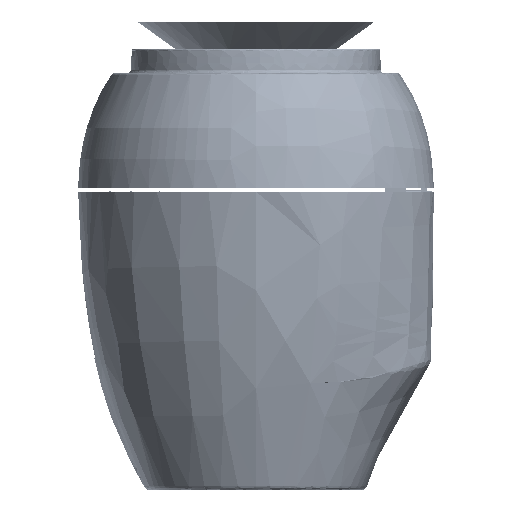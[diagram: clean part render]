
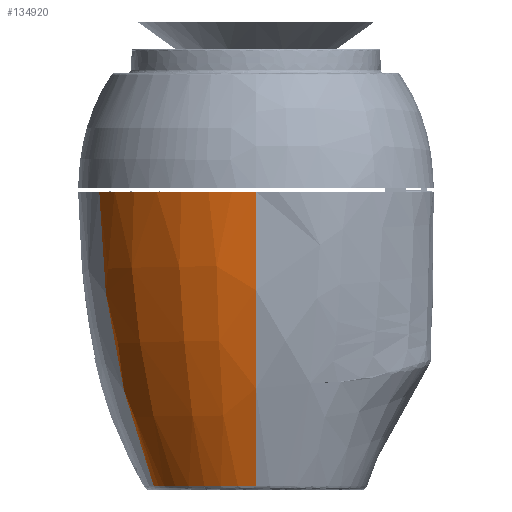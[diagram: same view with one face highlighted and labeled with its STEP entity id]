
A CAD part, left-side view. The second image highlights one B-rep face of the part: STEP entity #134920.
In plain terms, the highlighted free-form (B-spline) face has degree [3, 3] with [7, 10] control points.
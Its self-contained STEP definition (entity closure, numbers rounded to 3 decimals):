
#88322=CARTESIAN_POINT('',(-51.013,8.327,
-35.697));
#88327=CARTESIAN_POINT('',(-56.58,-0.001,
-35.694));
#88328=CARTESIAN_POINT('',(-56.58,0.61,
-35.694));
#88329=CARTESIAN_POINT('',(-56.458,1.828,
-35.694));
#88330=CARTESIAN_POINT('',(-55.931,3.513,
-35.694));
#88331=CARTESIAN_POINT('',(-55.044,5.139,
-35.695));
#88332=CARTESIAN_POINT('',(-53.801,6.606,
-35.696));
#88333=CARTESIAN_POINT('',(-52.463,7.647,
-35.697));
#88334=CARTESIAN_POINT('',(-51.5,8.136,
-35.697));
#88335=CARTESIAN_POINT('',(-51.013,8.327,
-35.697));
#88340=CARTESIAN_POINT('',(-54.312,12.781,
-11.65));
#88341=CARTESIAN_POINT('',(-54.194,12.767,
-13.795));
#88342=CARTESIAN_POINT('',(-53.878,12.555,
-17.995));
#88343=CARTESIAN_POINT('',(-53.157,11.682,
-24.129));
#88344=CARTESIAN_POINT('',(-52.213,10.293,
-29.985));
#88345=CARTESIAN_POINT('',(-51.431,9.025,
-33.828));
#88346=CARTESIAN_POINT('',(-51.013,8.327,
-35.697));
#88351=CARTESIAN_POINT('',(-56.58,-0.001,
-35.694));
#88352=CARTESIAN_POINT('',(-57.391,0.,
-33.767));
#88353=CARTESIAN_POINT('',(-58.871,0.,
-29.806));
#88354=CARTESIAN_POINT('',(-60.524,0.002,
-23.86));
#88355=CARTESIAN_POINT('',(-61.624,0.003,-17.733));
#88356=CARTESIAN_POINT('',(-61.948,0.004,
-13.679));
#88357=CARTESIAN_POINT('',(-62.011,0.004,
-11.65));
#88937=CARTESIAN_POINT('',(-54.312,12.781,
-11.65));
#88938=CARTESIAN_POINT('',(-54.556,12.654,
-11.65));
#88939=CARTESIAN_POINT('',(-55.277,12.252,
-11.65));
#88940=CARTESIAN_POINT('',(-56.416,11.477,
-11.65));
#88941=CARTESIAN_POINT('',(-57.658,10.387,
-11.65));
#88942=CARTESIAN_POINT('',(-59.137,8.754,
-11.65));
#88943=CARTESIAN_POINT('',(-60.64,6.431,
-11.65));
#88944=CARTESIAN_POINT('',(-61.765,3.305,
-11.65));
#88945=CARTESIAN_POINT('',(-62.011,1.104,
-11.65));
#88946=CARTESIAN_POINT('',(-62.011,0.004,
-11.65));
#88965=CARTESIAN_POINT('',(-54.312,12.781,
-11.65));
#112421=CARTESIAN_POINT('',(-56.58,-0.001,
-35.694));
#114550=VERTEX_POINT('',#112421);
#114551=VERTEX_POINT('',#88357);
#114552=VERTEX_POINT('',#88322);
#114610=VERTEX_POINT('',#88965);
#134842=CARTESIAN_POINT('',(-54.191,12.851,
-11.402));
#134843=CARTESIAN_POINT('',(-54.481,12.704,
-11.403));
#134844=CARTESIAN_POINT('',(-55.248,12.281,
-11.404));
#134845=CARTESIAN_POINT('',(-56.427,11.477,
-11.406));
#134846=CARTESIAN_POINT('',(-57.668,10.387,
-11.408));
#134847=CARTESIAN_POINT('',(-59.146,8.754,
-11.411));
#134848=CARTESIAN_POINT('',(-60.648,6.43,
-11.414));
#134849=CARTESIAN_POINT('',(-61.789,3.255,
-11.416));
#134850=CARTESIAN_POINT('',(-62.029,0.999,
-11.416));
#134851=CARTESIAN_POINT('',(-62.017,-0.153,
-11.416));
#134852=CARTESIAN_POINT('',(-54.069,12.843,
-13.636));
#134853=CARTESIAN_POINT('',(-54.364,12.697,
-13.631));
#134854=CARTESIAN_POINT('',(-55.137,12.278,
-13.62));
#134855=CARTESIAN_POINT('',(-56.326,11.48,
-13.603));
#134856=CARTESIAN_POINT('',(-57.582,10.39,
-13.585));
#134857=CARTESIAN_POINT('',(-59.068,8.76,
-13.564));
#134858=CARTESIAN_POINT('',(-60.578,6.441,
-13.543));
#134859=CARTESIAN_POINT('',(-61.731,3.26,
-13.527));
#134860=CARTESIAN_POINT('',(-61.972,0.999,
-13.523));
#134861=CARTESIAN_POINT('',(-61.96,-0.153,
-13.523));
#134862=CARTESIAN_POINT('',(-53.749,12.633,
-17.921));
#134863=CARTESIAN_POINT('',(-54.048,12.49,
-17.911));
#134864=CARTESIAN_POINT('',(-54.818,12.086,
-17.885));
#134865=CARTESIAN_POINT('',(-56.008,11.31,
-17.844));
#134866=CARTESIAN_POINT('',(-57.269,10.24,
-17.802));
#134867=CARTESIAN_POINT('',(-58.75,8.642,
-17.752));
#134868=CARTESIAN_POINT('',(-60.254,6.364,
-17.702));
#134869=CARTESIAN_POINT('',(-61.409,3.22,
-17.663));
#134870=CARTESIAN_POINT('',(-61.649,0.985,
-17.654));
#134871=CARTESIAN_POINT('',(-61.637,-0.152,
-17.655));
#134872=CARTESIAN_POINT('',(-53.025,11.742,
-24.134));
#134873=CARTESIAN_POINT('',(-53.311,11.614,
-24.124));
#134874=CARTESIAN_POINT('',(-54.041,11.249,
-24.097));
#134875=CARTESIAN_POINT('',(-55.171,10.542,
-24.055));
#134876=CARTESIAN_POINT('',(-56.373,9.555,
-24.012));
#134877=CARTESIAN_POINT('',(-57.777,8.075,
-23.96));
#134878=CARTESIAN_POINT('',(-59.204,5.957,
-23.908));
#134879=CARTESIAN_POINT('',(-60.308,3.015,
-23.868));
#134880=CARTESIAN_POINT('',(-60.535,0.921,
-23.859));
#134881=CARTESIAN_POINT('',(-60.524,-0.143,
-23.86));
#134882=CARTESIAN_POINT('',(-52.083,10.324,
-30.065));
#134883=CARTESIAN_POINT('',(-52.339,10.218,
-30.058));
#134884=CARTESIAN_POINT('',(-52.994,9.91,
-30.04));
#134885=CARTESIAN_POINT('',(-54.011,9.305,
-30.012));
#134886=CARTESIAN_POINT('',(-55.093,8.45,
-29.983));
#134887=CARTESIAN_POINT('',(-56.36,7.153,
-29.949));
#134888=CARTESIAN_POINT('',(-57.652,5.285,
-29.914));
#134889=CARTESIAN_POINT('',(-58.654,2.679,
-29.888));
#134890=CARTESIAN_POINT('',(-58.86,0.818,
-29.882));
#134891=CARTESIAN_POINT('',(-58.849,-0.128,
-29.882));
#134892=CARTESIAN_POINT('',(-51.297,9.016,
-33.981));
#134893=CARTESIAN_POINT('',(-51.52,8.929,
-33.979));
#134894=CARTESIAN_POINT('',(-52.102,8.67,
-33.973));
#134895=CARTESIAN_POINT('',(-53.007,8.156,
-33.963));
#134896=CARTESIAN_POINT('',(-53.968,7.423,
-33.953));
#134897=CARTESIAN_POINT('',(-55.101,6.292,
-33.942));
#134898=CARTESIAN_POINT('',(-56.26,4.652,
-33.93));
#134899=CARTESIAN_POINT('',(-57.158,2.363,
-33.921));
#134900=CARTESIAN_POINT('',(-57.343,0.722,
-33.919));
#134901=CARTESIAN_POINT('',(-57.333,-0.114,
-33.919));
#134902=CARTESIAN_POINT('',(-50.867,8.278,
-35.925));
#134903=CARTESIAN_POINT('',(-51.072,8.202,
-35.925));
#134904=CARTESIAN_POINT('',(-51.612,7.969,
-35.924));
#134905=CARTESIAN_POINT('',(-52.452,7.506,
-35.924));
#134906=CARTESIAN_POINT('',(-53.342,6.842,
-35.924));
#134907=CARTESIAN_POINT('',(-54.399,5.804,
-35.923));
#134908=CARTESIAN_POINT('',(-55.481,4.293,
-35.923));
#134909=CARTESIAN_POINT('',(-56.319,2.184,
-35.923));
#134910=CARTESIAN_POINT('',(-56.492,0.667,
-35.922));
#134911=CARTESIAN_POINT('',(-56.482,-0.106,
-35.922));
#134912=B_SPLINE_SURFACE_WITH_KNOTS('',3,3,((#134842,#134843,#134844,#134845,
#134846,#134847,#134848,#134849,#134850,#134851),(#134852,#134853,#134854,
#134855,#134856,#134857,#134858,#134859,#134860,#134861),(#134862,#134863,
#134864,#134865,#134866,#134867,#134868,#134869,#134870,#134871),(#134872,
#134873,#134874,#134875,#134876,#134877,#134878,#134879,#134880,#134881),(
#134882,#134883,#134884,#134885,#134886,#134887,#134888,#134889,#134890,
#134891),(#134892,#134893,#134894,#134895,#134896,#134897,#134898,#134899,
#134900,#134901),(#134902,#134903,#134904,#134905,#134906,#134907,#134908,
#134909,#134910,#134911)),.UNSPECIFIED.,.F.,.F.,.F.,(4,1,1,1,4),(4,1,1,1,1,1,1,
4),(-25.396,-19.001,-12.844,-6.629,
-0.495),(52.664,53.479,54.856,
56.234,57.611,60.365,63.12,
66.005),.UNSPECIFIED.);
#134913=ORIENTED_EDGE('',*,*,#134835,.T.);
#134914=ORIENTED_EDGE('',*,*,#118273,.F.);
#134916=ORIENTED_EDGE('',*,*,#134915,.T.);
#134917=ORIENTED_EDGE('',*,*,#125277,.F.);
#134918=EDGE_LOOP('',(#134913,#134914,#134916,#134917));
#134919=FACE_OUTER_BOUND('',#134918,.F.);
#88336=B_SPLINE_CURVE_WITH_KNOTS('',3,(#88327,#88328,#88329,#88330,#88331,
#88332,#88333,#88334,#88335),.UNSPECIFIED.,.F.,.F.,(4,1,1,1,1,1,4),(0.,
0.167,0.333,0.5,0.667,0.833,
1.),.UNSPECIFIED.);
#88347=B_SPLINE_CURVE_WITH_KNOTS('',3,(#88340,#88341,#88342,#88343,#88344,
#88345,#88346),.UNSPECIFIED.,.F.,.F.,(4,1,1,1,4),(0.,0.252,
0.504,0.759,1.),.UNSPECIFIED.);
#88358=B_SPLINE_CURVE_WITH_KNOTS('',3,(#88351,#88352,#88353,#88354,#88355,
#88356,#88357),.UNSPECIFIED.,.F.,.F.,(4,1,1,1,4),(0.,0.242,
0.496,0.748,1.),.UNSPECIFIED.);
#88947=B_SPLINE_CURVE_WITH_KNOTS('',3,(#88937,#88938,#88939,#88940,#88941,
#88942,#88943,#88944,#88945,#88946),.UNSPECIFIED.,.F.,.F.,(4,1,1,1,1,1,1,4),(
0.,0.053,0.158,0.263,0.368,
0.579,0.789,1.),.UNSPECIFIED.);
#118273=EDGE_CURVE('',#114610,#114552,#88347,.T.);
#125277=EDGE_CURVE('',#114550,#114551,#88358,.T.);
#134835=EDGE_CURVE('',#114550,#114552,#88336,.T.);
#134915=EDGE_CURVE('',#114610,#114551,#88947,.T.);
#134920=ADVANCED_FACE('',(#134919),#134912,.T.);
